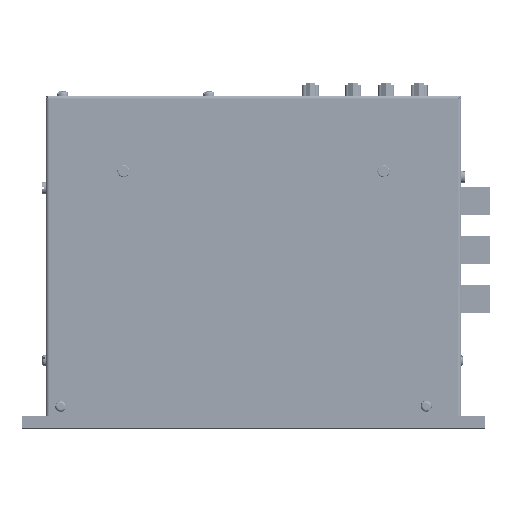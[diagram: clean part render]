
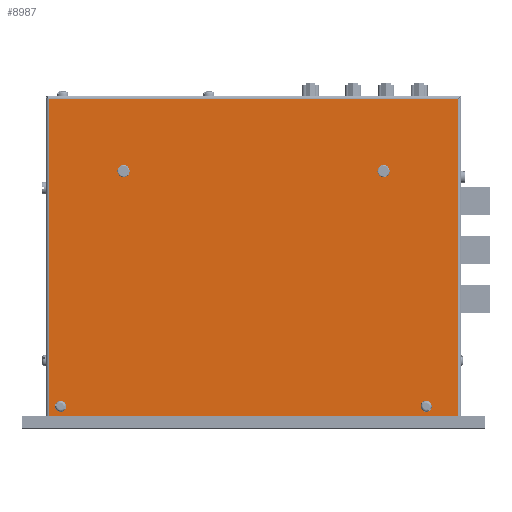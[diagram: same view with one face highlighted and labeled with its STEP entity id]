
A CAD part, left-side view. The second image highlights one B-rep face of the part: STEP entity #8987.
In plain terms, the highlighted planar face has unit normal (-1, 0, 0) as drawn and (0, 1, 0) by its records, which use the part's own axes.
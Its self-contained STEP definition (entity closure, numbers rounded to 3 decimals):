
#807 = VERTEX_POINT ( 'NONE', #53349 ) ;
#829 = VERTEX_POINT ( 'NONE', #53396 ) ;
#833 = EDGE_CURVE ( 'NONE', #829, #835, #53385, .T. ) ;
#835 = VERTEX_POINT ( 'NONE', #53376 ) ;
#885 = VERTEX_POINT ( 'NONE', #53571 ) ;
#889 = EDGE_CURVE ( 'NONE', #885, #807, #53567, .T. ) ;
#8615 = VERTEX_POINT ( 'NONE', #118093 ) ;
#8652 = VERTEX_POINT ( 'NONE', #118234 ) ;
#8741 = VERTEX_POINT ( 'NONE', #118728 ) ;
#8796 = EDGE_CURVE ( 'NONE', #8615, #8652, #118876, .T. ) ;
#8818 = VERTEX_POINT ( 'NONE', #119033 ) ;
#8841 = EDGE_CURVE ( 'NONE', #8652, #8818, #119171, .T. ) ;
#8846 = EDGE_CURVE ( 'NONE', #8615, #8741, #119151, .T. ) ;
#8884 = EDGE_CURVE ( 'NONE', #807, #885, #119270, .T. ) ;
#8987 = ADVANCED_FACE ( 'NONE', ( #119744, #119743, #119741, #119740, #119739 ), #119738, .T. ) ;
#8991 = EDGE_LOOP ( 'NONE', ( #8994, #9001 ) ) ;
#8994 = ORIENTED_EDGE ( 'NONE', *, *, #8997, .F. ) ;
#8997 = EDGE_CURVE ( 'NONE', #21773, #21656, #119707, .T. ) ;
#9001 = ORIENTED_EDGE ( 'NONE', *, *, #21770, .F. ) ;
#9003 = EDGE_LOOP ( 'NONE', ( #9007, #9015 ) ) ;
#9007 = ORIENTED_EDGE ( 'NONE', *, *, #9010, .F. ) ;
#9010 = EDGE_CURVE ( 'NONE', #21715, #21707, #119792, .T. ) ;
#9015 = ORIENTED_EDGE ( 'NONE', *, *, #21712, .F. ) ;
#9019 = EDGE_LOOP ( 'NONE', ( #35846, #9112 ) ) ;
#9032 = ORIENTED_EDGE ( 'NONE', *, *, #8884, .F. ) ;
#9035 = ORIENTED_EDGE ( 'NONE', *, *, #889, .F. ) ;
#9037 = EDGE_LOOP ( 'NONE', ( #9041, #9045, #9048, #9052 ) ) ;
#9041 = ORIENTED_EDGE ( 'NONE', *, *, #8841, .F. ) ;
#9045 = ORIENTED_EDGE ( 'NONE', *, *, #8796, .F. ) ;
#9048 = ORIENTED_EDGE ( 'NONE', *, *, #8846, .T. ) ;
#9052 = ORIENTED_EDGE ( 'NONE', *, *, #9055, .T. ) ;
#9055 = EDGE_CURVE ( 'NONE', #8741, #8818, #119885, .T. ) ;
#9073 = EDGE_CURVE ( 'NONE', #835, #829, #120021, .T. ) ;
#9112 = ORIENTED_EDGE ( 'NONE', *, *, #833, .F. ) ;
#9115 = EDGE_LOOP ( 'NONE', ( #9032, #9035 ) ) ;
#21656 = VERTEX_POINT ( 'NONE', #65744 ) ;
#21707 = VERTEX_POINT ( 'NONE', #65842 ) ;
#21712 = EDGE_CURVE ( 'NONE', #21707, #21715, #65837, .T. ) ;
#21715 = VERTEX_POINT ( 'NONE', #65831 ) ;
#21770 = EDGE_CURVE ( 'NONE', #21656, #21773, #65926, .T. ) ;
#21773 = VERTEX_POINT ( 'NONE', #65921 ) ;
#35846 = ORIENTED_EDGE ( 'NONE', *, *, #9073, .F. ) ;
#53349 = CARTESIAN_POINT ( 'NONE',  ( 120.8, 0., -62.3 ) ) ;
#53376 = CARTESIAN_POINT ( 'NONE',  ( 120.8, 0., 65.7 ) ) ;
#53377 = DIRECTION ( 'NONE',  ( 0., 0., -1. ) ) ;
#53379 = DIRECTION ( 'NONE',  ( 0., 1., 0. ) ) ;
#53381 = CARTESIAN_POINT ( 'NONE',  ( 120.8, 0., 64. ) ) ;
#53383 = AXIS2_PLACEMENT_3D ( 'NONE', #53381, #53379, #53377 ) ;
#53385 = CIRCLE ( 'NONE', #53383, 1.7 ) ;
#53396 = CARTESIAN_POINT ( 'NONE',  ( 120.8, 0., 62.3 ) ) ;
#53560 = DIRECTION ( 'NONE',  ( 0., 0., 1. ) ) ;
#53562 = DIRECTION ( 'NONE',  ( 0., 1., 0. ) ) ;
#53564 = CARTESIAN_POINT ( 'NONE',  ( 120.8, 0., -64. ) ) ;
#53565 = AXIS2_PLACEMENT_3D ( 'NONE', #53564, #53562, #53560 ) ;
#53567 = CIRCLE ( 'NONE', #53565, 1.7 ) ;
#53571 = CARTESIAN_POINT ( 'NONE',  ( 120.8, 0., -65.7 ) ) ;
#65744 = CARTESIAN_POINT ( 'NONE',  ( 5., 0., -96.7 ) ) ;
#65831 = CARTESIAN_POINT ( 'NONE',  ( 5., 0., 86.7 ) ) ;
#65833 = DIRECTION ( 'NONE',  ( 0., 0., 1. ) ) ;
#65834 = DIRECTION ( 'NONE',  ( 0., 1., 0. ) ) ;
#65835 = CARTESIAN_POINT ( 'NONE',  ( 5., 0., 85. ) ) ;
#65836 = AXIS2_PLACEMENT_3D ( 'NONE', #65835, #65834, #65833 ) ;
#65837 = CIRCLE ( 'NONE', #65836, 1.7 ) ;
#65842 = CARTESIAN_POINT ( 'NONE',  ( 5., 0., 83.3 ) ) ;
#65921 = CARTESIAN_POINT ( 'NONE',  ( 5., 0., -93.3 ) ) ;
#65922 = DIRECTION ( 'NONE',  ( 0., 0., 1. ) ) ;
#65923 = DIRECTION ( 'NONE',  ( 0., 1., 0. ) ) ;
#65924 = CARTESIAN_POINT ( 'NONE',  ( 5., 0., -95. ) ) ;
#65925 = AXIS2_PLACEMENT_3D ( 'NONE', #65924, #65923, #65922 ) ;
#65926 = CIRCLE ( 'NONE', #65925, 1.7 ) ;
#118093 = CARTESIAN_POINT ( 'NONE',  ( 0., 0., 100.6 ) ) ;
#118234 = CARTESIAN_POINT ( 'NONE',  ( 0., 0., -100.6 ) ) ;
#118728 = CARTESIAN_POINT ( 'NONE',  ( 156.4, 0., 100.6 ) ) ;
#118874 = VECTOR ( 'NONE', #118995, 1000. ) ;
#118875 = CARTESIAN_POINT ( 'NONE',  ( 0., 0., 100.6 ) ) ;
#118876 = LINE ( 'NONE', #118875, #118874 ) ;
#118995 = DIRECTION ( 'NONE',  ( 0., 0., -1. ) ) ;
#119033 = CARTESIAN_POINT ( 'NONE',  ( 156.4, 0., -100.6 ) ) ;
#119146 = DIRECTION ( 'NONE',  ( 1., 0., 0. ) ) ;
#119148 = VECTOR ( 'NONE', #119146, 1000. ) ;
#119150 = CARTESIAN_POINT ( 'NONE',  ( 0., 0., 100.6 ) ) ;
#119151 = LINE ( 'NONE', #119150, #119148 ) ;
#119166 = DIRECTION ( 'NONE',  ( 1., 0., 0. ) ) ;
#119168 = VECTOR ( 'NONE', #119166, 1000. ) ;
#119170 = CARTESIAN_POINT ( 'NONE',  ( 0., 0., -100.6 ) ) ;
#119171 = LINE ( 'NONE', #119170, #119168 ) ;
#119262 = DIRECTION ( 'NONE',  ( 0., 0., 1. ) ) ;
#119265 = DIRECTION ( 'NONE',  ( 0., 1., 0. ) ) ;
#119266 = CARTESIAN_POINT ( 'NONE',  ( 120.8, 0., -64. ) ) ;
#119268 = AXIS2_PLACEMENT_3D ( 'NONE', #119266, #119265, #119262 ) ;
#119270 = CIRCLE ( 'NONE', #119268, 1.7 ) ;
#119700 = DIRECTION ( 'NONE',  ( 0., 0., 1. ) ) ;
#119702 = DIRECTION ( 'NONE',  ( 0., 1., 0. ) ) ;
#119704 = CARTESIAN_POINT ( 'NONE',  ( 5., 0., -95. ) ) ;
#119706 = AXIS2_PLACEMENT_3D ( 'NONE', #119704, #119702, #119700 ) ;
#119707 = CIRCLE ( 'NONE', #119706, 1.7 ) ;
#119727 = DIRECTION ( 'NONE',  ( 0., 0., 1. ) ) ;
#119729 = DIRECTION ( 'NONE',  ( 0., 1., 0. ) ) ;
#119730 = CARTESIAN_POINT ( 'NONE',  ( 0., 0., 100.6 ) ) ;
#119732 = AXIS2_PLACEMENT_3D ( 'NONE', #119730, #119729, #119727 ) ;
#119738 = PLANE ( 'NONE',  #119732 ) ;
#119739 = FACE_OUTER_BOUND ( 'NONE', #9037, .T. ) ;
#119740 = FACE_BOUND ( 'NONE', #9115, .T. ) ;
#119741 = FACE_BOUND ( 'NONE', #9019, .T. ) ;
#119743 = FACE_BOUND ( 'NONE', #9003, .T. ) ;
#119744 = FACE_BOUND ( 'NONE', #8991, .T. ) ;
#119788 = DIRECTION ( 'NONE',  ( 0., 0., 1. ) ) ;
#119789 = DIRECTION ( 'NONE',  ( 0., 1., 0. ) ) ;
#119790 = CARTESIAN_POINT ( 'NONE',  ( 5., 0., 85. ) ) ;
#119791 = AXIS2_PLACEMENT_3D ( 'NONE', #119790, #119789, #119788 ) ;
#119792 = CIRCLE ( 'NONE', #119791, 1.7 ) ;
#119882 = DIRECTION ( 'NONE',  ( 0., 0., -1. ) ) ;
#119883 = VECTOR ( 'NONE', #119882, 1000. ) ;
#119884 = CARTESIAN_POINT ( 'NONE',  ( 156.4, 0., 100.6 ) ) ;
#119885 = LINE ( 'NONE', #119884, #119883 ) ;
#120014 = DIRECTION ( 'NONE',  ( 0., 0., -1. ) ) ;
#120015 = DIRECTION ( 'NONE',  ( 0., 1., 0. ) ) ;
#120017 = CARTESIAN_POINT ( 'NONE',  ( 120.8, 0., 64. ) ) ;
#120018 = AXIS2_PLACEMENT_3D ( 'NONE', #120017, #120015, #120014 ) ;
#120021 = CIRCLE ( 'NONE', #120018, 1.7 ) ;
